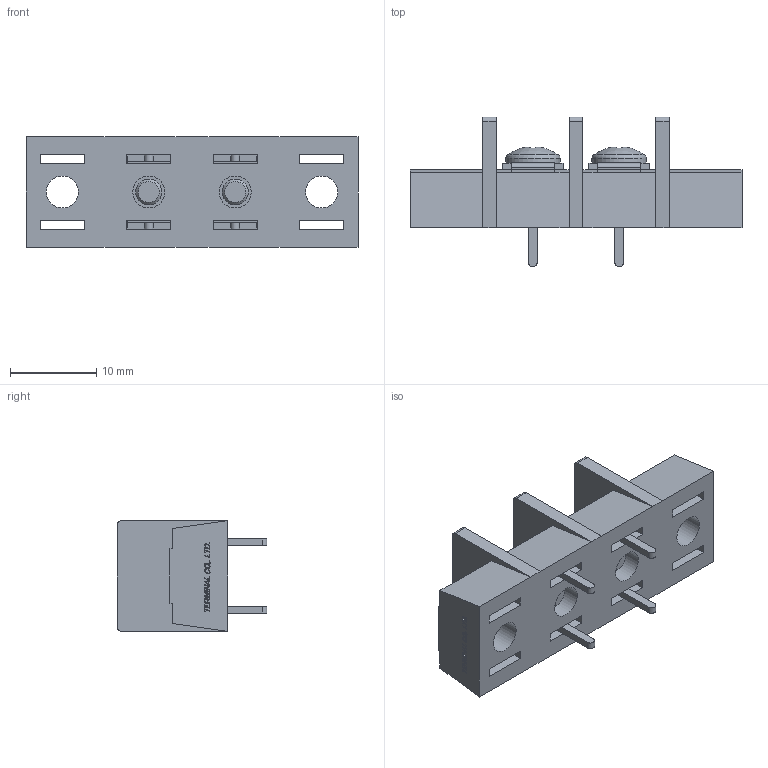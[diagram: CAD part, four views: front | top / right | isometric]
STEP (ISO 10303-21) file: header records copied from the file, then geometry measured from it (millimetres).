
FILE_DESCRIPTION(/* description */ ('Alibre Inc.'),/* implementation_level */ '2;1');
FILE_NAME(/* name */ 'export0',/* time_stamp */ '2015-10-23T18:47:45+09:00',/* author */ (''),/* organization */ (''),/* preprocessor_version */ 'ST-DEVELOPER v14',/* originating_system */ 'Alibre',/* authorisation */ '');
FILE_SCHEMA (('CONFIG_CONTROL_DESIGN'));
Length unit declared in the file: centimetre
Products named in the file (1): ID_1
Bounding box: 38.4 x 17.3 x 12.8 mm (x, y, z)
Volume: 3100.6 mm3; surface area: 3612.7 mm2
Topology: 1 solids, 35 shells, 982 faces, 2556 edges, 1694 vertices
Faces by surface type: plane 730, bspline 208, cylinder 28, cone 10, torus 4, sphere 2
Full cylindrical faces by diameter (mm): 3 x4, 3.7 x4, 4.6 x4, 6.3 x2
Entity records: 28879 total; most frequent: CARTESIAN_POINT 7071, ORIENTED_EDGE 5064, DIRECTION 2954, EDGE_CURVE 2532, VECTOR 1972, LINE 1972, VERTEX_POINT 1690, EDGE_LOOP 1092
